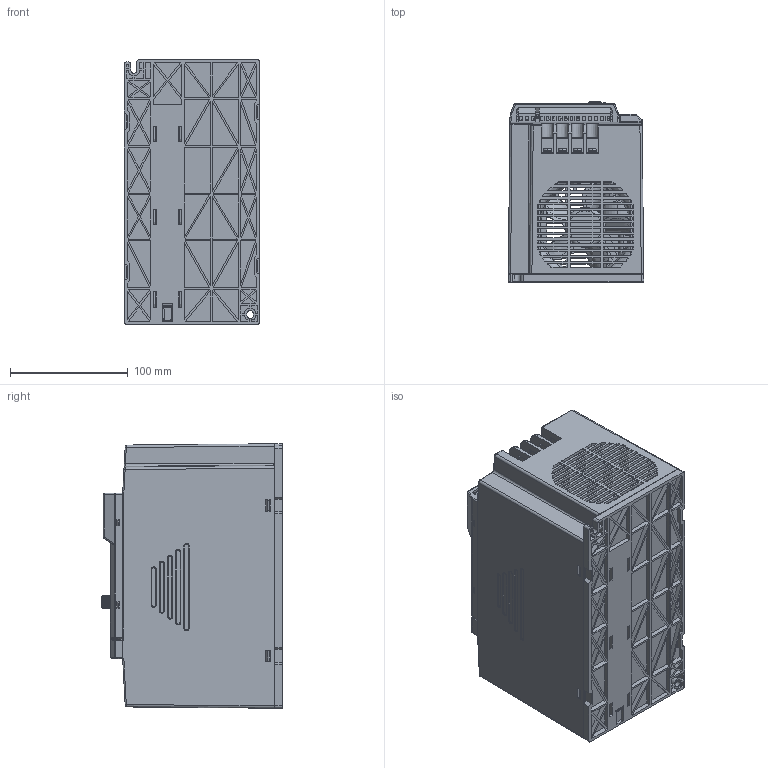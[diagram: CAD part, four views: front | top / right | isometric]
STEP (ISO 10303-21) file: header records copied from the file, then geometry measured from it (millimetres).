
FILE_DESCRIPTION((''),'2;1');
FILE_NAME('PRT0002','2023-08-31T21:21:21',('A004155'),(''),'CREO PARAMETRIC BY PTC INC, 2020074','CREO PARAMETRIC BY PTC INC, 2020074','');
FILE_SCHEMA(('CONFIG_CONTROL_DESIGN'));
Products named in the file (1): PRT0002
Bounding box: 115.45 x 153.7 x 225.45 mm (x, y, z)
Surface area: 574243.1 mm2 (no closed solid volume)
Topology: 0 solids, 36 shells, 6344 faces, 17688 edges, 11662 vertices
Faces by surface type: plane 4105, cylinder 1699, cone 181, bspline 140, torus 111, extrusion 56, sphere 50, revolution 2
Entity records: 215797 total; most frequent: CARTESIAN_POINT 54743, ORIENTED_EDGE 35292, DIRECTION 30424, EDGE_CURVE 17646, VECTOR 12594, LINE 12538, VERTEX_POINT 11662, AXIS2_PLACEMENT_3D 8914
